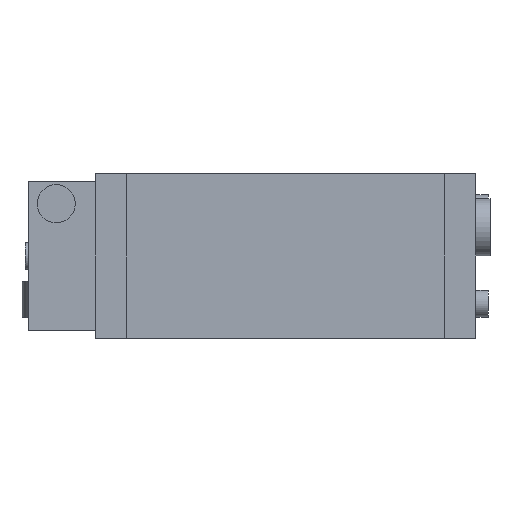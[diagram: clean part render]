
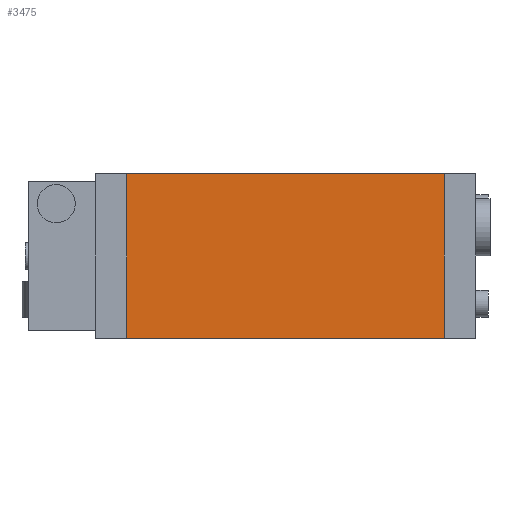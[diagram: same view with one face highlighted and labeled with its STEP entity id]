
A CAD part, front view. The second image highlights one B-rep face of the part: STEP entity #3475.
In plain terms, the highlighted planar face has unit normal (0, -1, 0).
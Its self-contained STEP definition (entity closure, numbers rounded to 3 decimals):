
#3370=CARTESIAN_POINT('',(50.,-233.,26.));
#3371=VERTEX_POINT('',#3370);
#3372=CARTESIAN_POINT('',(50.0,-233.,-26.));
#3373=VERTEX_POINT('',#3372);
#3374=CARTESIAN_POINT('',(50.,-233.,26.));
#3375=DIRECTION('',(0.0,0.0,-1.0));
#3376=VECTOR('',#3375,52.);
#3377=LINE('',#3374,#3376);
#3378=EDGE_CURVE('',#3371,#3373,#3377,.T.);
#3401=CARTESIAN_POINT('',(-50.,-233.,-26.));
#3402=VERTEX_POINT('',#3401);
#3403=CARTESIAN_POINT('',(-50.,-233.,-26.));
#3404=DIRECTION('',(1.0,0.0,0.0));
#3405=VECTOR('',#3404,100.);
#3406=LINE('',#3403,#3405);
#3407=EDGE_CURVE('',#3402,#3373,#3406,.T.);
#3425=CARTESIAN_POINT('',(-50.,-233.,26.));
#3426=VERTEX_POINT('',#3425);
#3427=CARTESIAN_POINT('',(-50.,-233.,-26.));
#3428=DIRECTION('',(0.0,0.0,1.0));
#3429=VECTOR('',#3428,52.0);
#3430=LINE('',#3427,#3429);
#3431=EDGE_CURVE('',#3402,#3426,#3430,.T.);
#3452=CARTESIAN_POINT('',(50.,-233.,26.));
#3453=DIRECTION('',(-1.0,0.0,0.0));
#3454=VECTOR('',#3453,100.);
#3455=LINE('',#3452,#3454);
#3456=EDGE_CURVE('',#3371,#3426,#3455,.T.);
#3464=CARTESIAN_POINT('',(50.,-233.,-26.));
#3465=DIRECTION('',(0.0,-1.0,0.0));
#3466=DIRECTION('',(1.0,0.0,0.0));
#3467=AXIS2_PLACEMENT_3D('',#3464,#3465,#3466);
#3468=PLANE('',#3467);
#3469=ORIENTED_EDGE('',*,*,#3378,.F.);
#3470=ORIENTED_EDGE('',*,*,#3456,.T.);
#3471=ORIENTED_EDGE('',*,*,#3431,.F.);
#3472=ORIENTED_EDGE('',*,*,#3407,.T.);
#3473=EDGE_LOOP('',(#3469,#3470,#3471,#3472));
#3474=FACE_OUTER_BOUND('',#3473,.T.);
#3475=ADVANCED_FACE('',(#3474),#3468,.T.);
